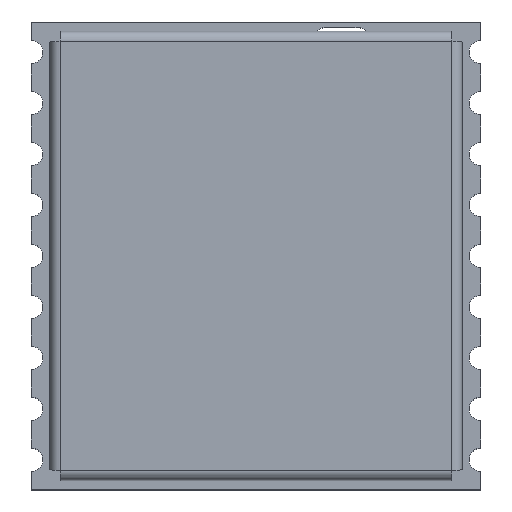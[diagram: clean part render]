
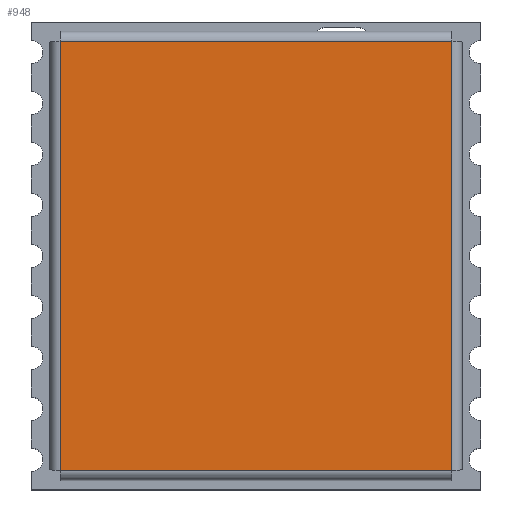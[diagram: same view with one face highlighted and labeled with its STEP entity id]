
A CAD part, top view. The second image highlights one B-rep face of the part: STEP entity #948.
In plain terms, the highlighted planar face has unit normal (0, 0, 1).
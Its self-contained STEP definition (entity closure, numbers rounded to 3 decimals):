
#948 = ADVANCED_FACE('',(#949),#983,.T.);
#949 = FACE_BOUND('',#950,.T.);
#950 = EDGE_LOOP('',(#951,#961,#969,#977));
#951 = ORIENTED_EDGE('',*,*,#952,.T.);
#952 = EDGE_CURVE('',#953,#955,#957,.T.);
#953 = VERTEX_POINT('',#954);
#954 = CARTESIAN_POINT('',(4.63,-4.23,0.));
#955 = VERTEX_POINT('',#956);
#956 = CARTESIAN_POINT('',(4.63,4.23,0.));
#957 = LINE('',#958,#959);
#958 = CARTESIAN_POINT('',(4.63,-4.23,0.));
#959 = VECTOR('',#960,1.);
#960 = DIRECTION('',(0.,1.,0.));
#961 = ORIENTED_EDGE('',*,*,#962,.T.);
#962 = EDGE_CURVE('',#955,#963,#965,.T.);
#963 = VERTEX_POINT('',#964);
#964 = CARTESIAN_POINT('',(-4.63,4.23,0.));
#965 = LINE('',#966,#967);
#966 = CARTESIAN_POINT('',(4.63,4.23,0.));
#967 = VECTOR('',#968,1.);
#968 = DIRECTION('',(-1.,-0.,-0.));
#969 = ORIENTED_EDGE('',*,*,#970,.T.);
#970 = EDGE_CURVE('',#963,#971,#973,.T.);
#971 = VERTEX_POINT('',#972);
#972 = CARTESIAN_POINT('',(-4.63,-4.23,0.));
#973 = LINE('',#974,#975);
#974 = CARTESIAN_POINT('',(-4.63,4.23,0.));
#975 = VECTOR('',#976,1.);
#976 = DIRECTION('',(0.,-1.,0.));
#977 = ORIENTED_EDGE('',*,*,#978,.T.);
#978 = EDGE_CURVE('',#971,#953,#979,.T.);
#979 = LINE('',#980,#981);
#980 = CARTESIAN_POINT('',(-4.63,-4.23,0.));
#981 = VECTOR('',#982,1.);
#982 = DIRECTION('',(1.,-0.,-0.));
#983 = PLANE('',#984);
#984 = AXIS2_PLACEMENT_3D('',#985,#986,#987);
#985 = CARTESIAN_POINT('',(0.,0.,0.));
#986 = DIRECTION('',(-0.,0.,1.));
#987 = DIRECTION('',(1.,0.,0.));
